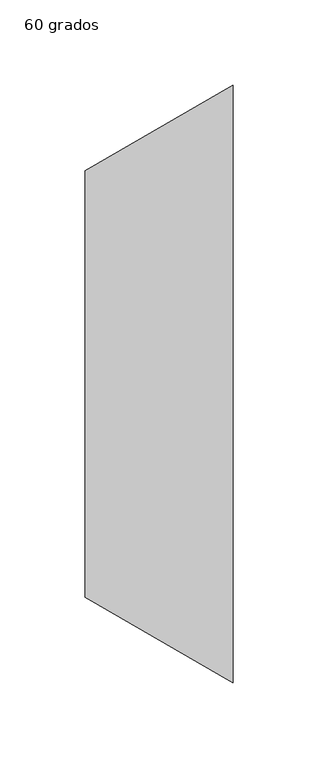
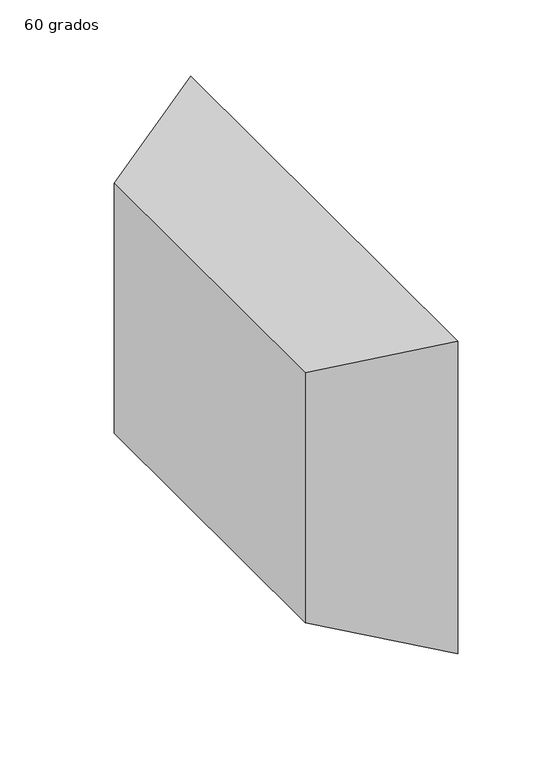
"""IFC4 building model written with IfcOpenShell, lengths in millimetres: duct fitting geometry, M_Transición rectangular - Ángulo : 60 grados."""

from ifc_helpers import new_model, si_unit, origin, place, context, project, spatial, faceted_brep, source, transform, mapped, element, save


def duct_fitting_60_grados_7e3dc76d(model_context):
    return source(origin(), model_context, "Body", "Brep", [
        faceted_brep([(86.6025404, -175.0, 125.0), (86.6025404, -175.0, -125.0), (86.6025404, 175.0, -125.0), (86.6025404, 175.0, 125.0), (0.0, -125.0, 100.0), (0.0, 125.0, 100.0), (0.0, 125.0, -100.0), (0.0, -125.0, -100.0)], [[[0, 1, 2, 3]], [[4, 5, 6, 7]], [[4, 7, 1, 0]], [[7, 6, 2, 1]], [[6, 5, 3, 2]], [[5, 4, 0, 3]]]),
    ])


if __name__ == "__main__":
    model = new_model("IFC4")
    model_context = context("Model", 3, world=origin())
    ifc_project = project(units=[si_unit("LENGTHUNIT", "METRE", prefix="MILLI")], contexts=[model_context])
    site = spatial("IfcSite", under=ifc_project)
    building = spatial("IfcBuilding", under=site)
    placement = place(None, origin())
    duct_fitting_60_grados_shape = duct_fitting_60_grados_7e3dc76d(model_context)
    element("IfcDuctFitting", 1, ObjectType="M_Transición rectangular - Ángulo : 60 grados", at=placement, inside=building, context=model_context, shape_type="MappedRepresentation", body=[
        mapped(duct_fitting_60_grados_shape, transform((0.0, 0.0, 0.0), x_axis=(1.0, 0.0, 0.0), y_axis=(0.0, 1.0, 0.0), z_axis=(0.0, 0.0, 1.0))),
    ])
    save(model, "model.ifc")
